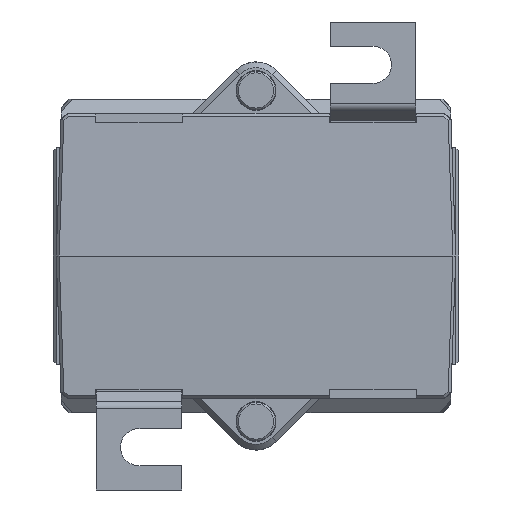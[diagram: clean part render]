
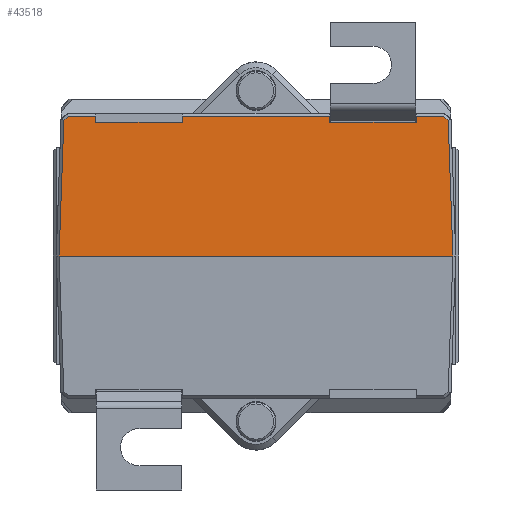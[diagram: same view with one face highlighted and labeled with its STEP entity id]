
A CAD part, front view. The second image highlights one B-rep face of the part: STEP entity #43518.
In plain terms, the highlighted planar face has unit normal (0, -0.999, 0.035).
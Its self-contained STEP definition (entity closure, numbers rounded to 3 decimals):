
#42543 = EDGE_CURVE ( 'NONE', #42685, #42727, #62374, .T. ) ;
#42685 = VERTEX_POINT ( 'NONE', #62471 ) ;
#42727 = VERTEX_POINT ( 'NONE', #62571 ) ;
#43505 = ORIENTED_EDGE ( 'NONE', *, *, #43658, .T. ) ;
#43508 = EDGE_LOOP ( 'NONE', ( #43522, #43520, #43646, #43623, #43645, #43505, #43514, #43533, #43540, #43527, #43656, #43685, #43688, #43691 ) ) ;
#43514 = ORIENTED_EDGE ( 'NONE', *, *, #42543, .T. ) ;
#43516 = VERTEX_POINT ( 'NONE', #63355 ) ;
#43518 = ADVANCED_FACE ( 'NONE', ( #63363 ), #63351, .T. ) ;
#43520 = ORIENTED_EDGE ( 'NONE', *, *, #43523, .F. ) ;
#43522 = ORIENTED_EDGE ( 'NONE', *, *, #43525, .F. ) ;
#43523 = EDGE_CURVE ( 'NONE', #43636, #43722, #63406, .T. ) ;
#43525 = EDGE_CURVE ( 'NONE', #43722, #43516, #63402, .T. ) ;
#43527 = ORIENTED_EDGE ( 'NONE', *, *, #43660, .T. ) ;
#43529 = VERTEX_POINT ( 'NONE', #63410 ) ;
#43531 = VERTEX_POINT ( 'NONE', #63409 ) ;
#43532 = EDGE_CURVE ( 'NONE', #42727, #43644, #63395, .T. ) ;
#43533 = ORIENTED_EDGE ( 'NONE', *, *, #43532, .T. ) ;
#43536 = EDGE_CURVE ( 'NONE', #43644, #43529, #63389, .T. ) ;
#43538 = VERTEX_POINT ( 'NONE', #63396 ) ;
#43540 = ORIENTED_EDGE ( 'NONE', *, *, #43536, .T. ) ;
#43543 = VERTEX_POINT ( 'NONE', #63391 ) ;
#43547 = EDGE_CURVE ( 'NONE', #43650, #43538, #63398, .T. ) ;
#43623 = ORIENTED_EDGE ( 'NONE', *, *, #43648, .T. ) ;
#43636 = VERTEX_POINT ( 'NONE', #63450 ) ;
#43638 = VERTEX_POINT ( 'NONE', #63449 ) ;
#43641 = EDGE_CURVE ( 'NONE', #43643, #43636, #63483, .T. ) ;
#43643 = VERTEX_POINT ( 'NONE', #63481 ) ;
#43644 = VERTEX_POINT ( 'NONE', #63484 ) ;
#43645 = ORIENTED_EDGE ( 'NONE', *, *, #43655, .T. ) ;
#43646 = ORIENTED_EDGE ( 'NONE', *, *, #43641, .F. ) ;
#43648 = EDGE_CURVE ( 'NONE', #43643, #43652, #63489, .T. ) ;
#43650 = VERTEX_POINT ( 'NONE', #63534 ) ;
#43652 = VERTEX_POINT ( 'NONE', #63478 ) ;
#43655 = EDGE_CURVE ( 'NONE', #43652, #43638, #63473, .T. ) ;
#43656 = ORIENTED_EDGE ( 'NONE', *, *, #43547, .F. ) ;
#43658 = EDGE_CURVE ( 'NONE', #43638, #42685, #63529, .T. ) ;
#43660 = EDGE_CURVE ( 'NONE', #43529, #43538, #63475, .T. ) ;
#43684 = EDGE_CURVE ( 'NONE', #43650, #43531, #63547, .T. ) ;
#43685 = ORIENTED_EDGE ( 'NONE', *, *, #43684, .T. ) ;
#43686 = EDGE_CURVE ( 'NONE', #43543, #43531, #63542, .T. ) ;
#43688 = ORIENTED_EDGE ( 'NONE', *, *, #43686, .F. ) ;
#43690 = EDGE_CURVE ( 'NONE', #43543, #43516, #63555, .T. ) ;
#43691 = ORIENTED_EDGE ( 'NONE', *, *, #43690, .T. ) ;
#43722 = VERTEX_POINT ( 'NONE', #63577 ) ;
#62366 = VECTOR ( 'NONE', #62369, 1000. ) ;
#62369 = DIRECTION ( 'NONE',  ( 1., 0., 0. ) ) ;
#62370 = CARTESIAN_POINT ( 'NONE',  ( -35., -36.75, 0. ) ) ;
#62374 = LINE ( 'NONE', #62370, #62366 ) ;
#62471 = CARTESIAN_POINT ( 'NONE',  ( -34.499, -36.75, 0. ) ) ;
#62571 = CARTESIAN_POINT ( 'NONE',  ( 34.5, -36.75, 0. ) ) ;
#63351 = PLANE ( 'NONE',  #63366 ) ;
#63355 = CARTESIAN_POINT ( 'NONE',  ( -12.882, -35.894, 24.5 ) ) ;
#63363 = FACE_OUTER_BOUND ( 'NONE', #43508, .T. ) ;
#63365 = CARTESIAN_POINT ( 'NONE',  ( -35., -36.75, 0. ) ) ;
#63366 = AXIS2_PLACEMENT_3D ( 'NONE', #63365, #63408, #63407 ) ;
#63382 = DIRECTION ( 'NONE',  ( 0.009, 0.035, 0.999 ) ) ;
#63383 = VECTOR ( 'NONE', #63382, 1000. ) ;
#63386 = DIRECTION ( 'NONE',  ( -0.731, 0.024, 0.682 ) ) ;
#63387 = VECTOR ( 'NONE', #63386, 1000. ) ;
#63388 = CARTESIAN_POINT ( 'NONE',  ( 32.74, -35.89, 24.625 ) ) ;
#63389 = LINE ( 'NONE', #63388, #63387 ) ;
#63391 = CARTESIAN_POINT ( 'NONE',  ( 12.882, -35.894, 24.5 ) ) ;
#63392 = DIRECTION ( 'NONE',  ( -0.035, 0.035, 0.999 ) ) ;
#63393 = VECTOR ( 'NONE', #63392, 1000. ) ;
#63394 = CARTESIAN_POINT ( 'NONE',  ( 34.415, -36.665, 2.421 ) ) ;
#63395 = LINE ( 'NONE', #63394, #63393 ) ;
#63396 = CARTESIAN_POINT ( 'NONE',  ( 28.118, -35.894, 24.5 ) ) ;
#63397 = CARTESIAN_POINT ( 'NONE',  ( 27.899, -36.769, -0.548 ) ) ;
#63398 = LINE ( 'NONE', #63397, #63383 ) ;
#63399 = DIRECTION ( 'NONE',  ( 0.009, 0.035, 0.999 ) ) ;
#63400 = VECTOR ( 'NONE', #63399, 1000. ) ;
#63401 = CARTESIAN_POINT ( 'NONE',  ( -13.098, -36.757, -0.191 ) ) ;
#63402 = LINE ( 'NONE', #63401, #63400 ) ;
#63403 = DIRECTION ( 'NONE',  ( 1., 0., 0. ) ) ;
#63404 = VECTOR ( 'NONE', #63403, 1000. ) ;
#63405 = CARTESIAN_POINT ( 'NONE',  ( -35., -35.933, 23.4 ) ) ;
#63406 = LINE ( 'NONE', #63405, #63404 ) ;
#63407 = DIRECTION ( 'NONE',  ( 0., -0.035, -0.999 ) ) ;
#63408 = DIRECTION ( 'NONE',  ( 0., -0.999, 0.035 ) ) ;
#63409 = CARTESIAN_POINT ( 'NONE',  ( 12.892, -35.933, 23.4 ) ) ;
#63410 = CARTESIAN_POINT ( 'NONE',  ( 32.874, -35.894, 24.5 ) ) ;
#63449 = CARTESIAN_POINT ( 'NONE',  ( -33.669, -35.92, 23.758 ) ) ;
#63450 = CARTESIAN_POINT ( 'NONE',  ( -28.108, -35.933, 23.4 ) ) ;
#63473 = LINE ( 'NONE', #63533, #63532 ) ;
#63475 = LINE ( 'NONE', #63525, #63523 ) ;
#63476 = DIRECTION ( 'NONE',  ( -1., 0., 0. ) ) ;
#63477 = VECTOR ( 'NONE', #63476, 1000. ) ;
#63478 = CARTESIAN_POINT ( 'NONE',  ( -32.874, -35.894, 24.5 ) ) ;
#63479 = DIRECTION ( 'NONE',  ( 0.009, -0.035, -0.999 ) ) ;
#63480 = VECTOR ( 'NONE', #63479, 1000. ) ;
#63481 = CARTESIAN_POINT ( 'NONE',  ( -28.118, -35.894, 24.5 ) ) ;
#63482 = CARTESIAN_POINT ( 'NONE',  ( -27.905, -36.748, 0.062 ) ) ;
#63483 = LINE ( 'NONE', #63482, #63480 ) ;
#63484 = CARTESIAN_POINT ( 'NONE',  ( 33.67, -35.92, 23.758 ) ) ;
#63488 = CARTESIAN_POINT ( 'NONE',  ( -33.09, -35.894, 24.5 ) ) ;
#63489 = LINE ( 'NONE', #63488, #63477 ) ;
#63522 = DIRECTION ( 'NONE',  ( -1., 0., 0. ) ) ;
#63523 = VECTOR ( 'NONE', #63522, 1000. ) ;
#63525 = CARTESIAN_POINT ( 'NONE',  ( -33.09, -35.894, 24.5 ) ) ;
#63526 = DIRECTION ( 'NONE',  ( -0.035, -0.035, -0.999 ) ) ;
#63527 = VECTOR ( 'NONE', #63526, 1000. ) ;
#63528 = CARTESIAN_POINT ( 'NONE',  ( -34.5, -36.751, -0.017 ) ) ;
#63529 = LINE ( 'NONE', #63528, #63527 ) ;
#63531 = DIRECTION ( 'NONE',  ( -0.731, -0.024, -0.682 ) ) ;
#63532 = VECTOR ( 'NONE', #63531, 1000. ) ;
#63533 = CARTESIAN_POINT ( 'NONE',  ( -33.812, -35.925, 23.626 ) ) ;
#63534 = CARTESIAN_POINT ( 'NONE',  ( 28.108, -35.933, 23.4 ) ) ;
#63535 = DIRECTION ( 'NONE',  ( -1., 0., 0. ) ) ;
#63536 = VECTOR ( 'NONE', #63535, 1000. ) ;
#63539 = DIRECTION ( 'NONE',  ( 0.009, -0.035, -0.999 ) ) ;
#63540 = VECTOR ( 'NONE', #63539, 1000. ) ;
#63541 = CARTESIAN_POINT ( 'NONE',  ( 13.092, -36.735, 0.419 ) ) ;
#63542 = LINE ( 'NONE', #63541, #63540 ) ;
#63543 = DIRECTION ( 'NONE',  ( -1., 0., 0. ) ) ;
#63544 = VECTOR ( 'NONE', #63543, 1000. ) ;
#63545 = CARTESIAN_POINT ( 'NONE',  ( -35., -35.933, 23.4 ) ) ;
#63547 = LINE ( 'NONE', #63545, #63544 ) ;
#63554 = CARTESIAN_POINT ( 'NONE',  ( -33.09, -35.894, 24.5 ) ) ;
#63555 = LINE ( 'NONE', #63554, #63536 ) ;
#63577 = CARTESIAN_POINT ( 'NONE',  ( -12.892, -35.933, 23.4 ) ) ;
